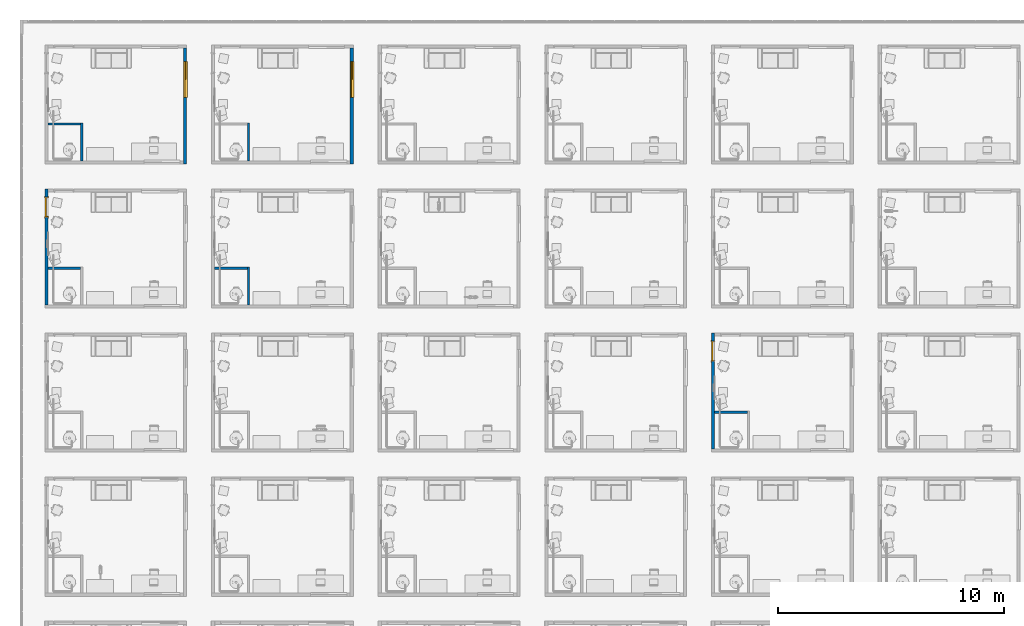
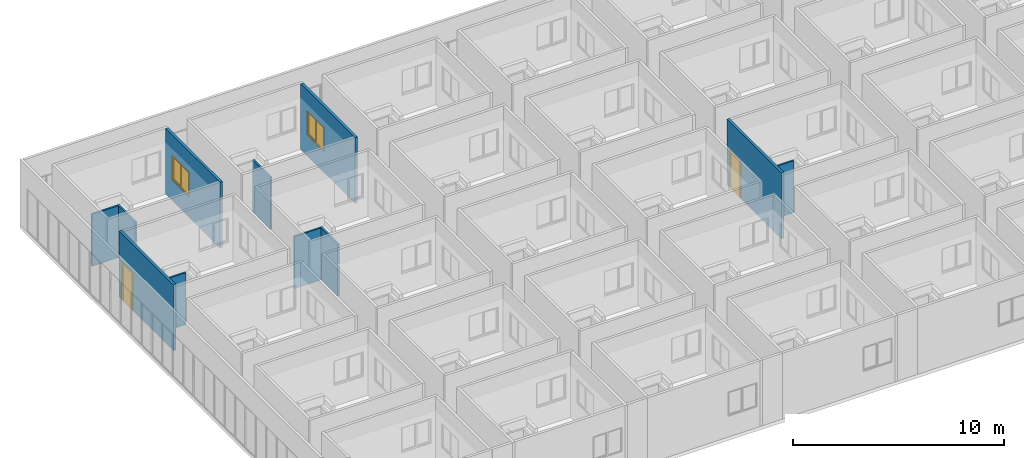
# One storey, part 8 of 71: 11 walls, 2 doors, 2 windows, 4 openings.
"""IFC4 building model written with IfcOpenShell, lengths in centimetres."""

from ifc_helpers import new_model, entity, si_unit, converted_unit, derived_unit, direction, frame, origin, place, context, subcontext, project, spatial, indexed_curve, outline, extrude, polygons, source, transform, mapped, material, constituent, constituent_set, type_object, type_shapes, element, fill, save


model = new_model("IFC4")

# Units and contexts
model_context = context("Model", 3, precision=0.001, world=origin(), true_north=direction((6.123233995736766e-17, 1.0)))
body_context = subcontext(model_context, "Body", "Model", "MODEL_VIEW")
ifc_project = project(units=[si_unit("LENGTHUNIT", "METRE", prefix="CENTI"), si_unit("AREAUNIT", "SQUARE_METRE"), si_unit("VOLUMEUNIT", "CUBIC_METRE"), derived_unit("THERMALTRANSMITTANCEUNIT", [(si_unit("MASSUNIT", "GRAM", prefix="KILO"), 1), (si_unit("THERMODYNAMICTEMPERATUREUNIT", "KELVIN"), -1), (si_unit("TIMEUNIT", "SECOND"), -3)]), converted_unit("PLANEANGLEUNIT", "DEGREE", entity("IfcPlaneAngleMeasure", 0.017453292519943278), si_unit("PLANEANGLEUNIT", "RADIAN"), dimensions=[0, 0, 0, 0, 0, 0, 0]), derived_unit("MASSDENSITYUNIT", [(si_unit("MASSUNIT", "GRAM", prefix="KILO"), 1), (si_unit("LENGTHUNIT", "METRE"), -3)]), derived_unit("VAPORPERMEABILITYUNIT", [(si_unit("LENGTHUNIT", "METRE"), -1), (si_unit("TIMEUNIT", "SECOND"), 1)]), derived_unit("USERDEFINED", [(si_unit("MASSUNIT", "GRAM", prefix="KILO"), 1), (si_unit("TIMEUNIT", "SECOND"), -3), (si_unit("LENGTHUNIT", "METRE"), 3), (si_unit("ELECTRICCURRENTUNIT", "AMPERE"), -2)]), derived_unit("SPECIFICHEATCAPACITYUNIT", [(si_unit("THERMODYNAMICTEMPERATUREUNIT", "KELVIN"), -1), (si_unit("LENGTHUNIT", "METRE"), 2), (si_unit("TIMEUNIT", "SECOND"), -2)]), derived_unit("THERMALCONDUCTANCEUNIT", [(si_unit("MASSUNIT", "GRAM", prefix="KILO"), 1), (si_unit("THERMODYNAMICTEMPERATUREUNIT", "KELVIN"), -1), (si_unit("TIMEUNIT", "SECOND"), -3), (si_unit("LENGTHUNIT", "METRE"), 1)]), si_unit("PRESSUREUNIT", "PASCAL"), derived_unit("MODULUSOFELASTICITYUNIT", [(si_unit("MASSUNIT", "GRAM", prefix="KILO"), 1), (si_unit("LENGTHUNIT", "METRE"), -1), (si_unit("TIMEUNIT", "SECOND"), -2)]), derived_unit("THERMALEXPANSIONCOEFFICIENTUNIT", [(si_unit("THERMODYNAMICTEMPERATUREUNIT", "KELVIN"), -1)])], contexts=[model_context])

# Site, building, storey
site_placement = place(None, origin())
site = spatial("IfcSite", under=ifc_project, at=site_placement, Name="Default", CompositionType="ELEMENT")
building_placement = place(site_placement, origin())
building = spatial("IfcBuilding", under=site, at=building_placement, Name="IDS Escape Game Building", CompositionType="ELEMENT")
storey_placement = place(building_placement, frame((0.0, 0.0, 1200.0)))
storey = spatial("IfcBuildingStorey", under=building, at=storey_placement, Name="03_Third Floor", CompositionType="ELEMENT", Elevation=1200.0)

# Wall, opening, door
ifc_material_1 = material(Name="ARC_FME.g2_Fg2 Masonry_00_gen_BERSnl", Category="g - klei")
wall_type_1 = type_object("IfcWallType", Name="Basic Wall:ARC_22.10_WA_LB_SB14_gen_BERSnl", PredefinedType="STANDARD")
wall_1_placement = place(storey_placement, frame((2952.0, 1803.0, 0.0), z_axis=(0.0, 0.0, 1.0), x_axis=(0.0, -1.0, 0.0)))
wall_1 = element("IfcWall", 1, at=wall_1_placement, inside=storey, type_object=wall_type_1, material=ifc_material_1, Name="Basic Wall:ARC_22.10_WA_LB_SB14_gen_BERSnl", ObjectType="Basic Wall:ARC_22.10_WA_LB_SB14_gen_BERSnl", PredefinedType="NOTDEFINED", context=body_context, shape_type="Tessellation", body=[
    polygons([(514.0000000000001, -6.999999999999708, 380.0), (2.1657342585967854e-13, -6.999999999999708, 380.0), (2.1657342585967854e-13, -6.999999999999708, 0.0), (35.99999999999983, -6.999999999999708, 0.0), (36.00000000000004, -6.999999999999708, 215.00000000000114), (125.99999999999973, -6.999999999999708, 215.00000000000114), (125.99999999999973, -6.999999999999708, 0.0), (514.0000000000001, -6.999999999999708, 0.0), (2.1657342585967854e-13, 7.000000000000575, 380.0), (14.000000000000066, 7.000000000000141, 380.0), (514.0000000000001, 7.000000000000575, 380.0), (514.0000000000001, 7.000000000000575, 0.0), (355.99999999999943, 7.000000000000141, 0.0), (345.9999999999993, 7.000000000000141, 0.0), (125.99999999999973, 7.000000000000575, 0.0), (125.99999999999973, 7.000000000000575, 215.00000000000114), (35.99999999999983, 7.000000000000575, 215.00000000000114), (35.99999999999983, 7.000000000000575, 0.0), (14.000000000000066, 7.000000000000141, 0.0), (2.1657342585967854e-13, 7.000000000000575, 0.0)], [[[1, 2, 3, 4, 5, 6, 7, 8]], [[9, 10, 11, 12, 13, 14, 15, 16, 17, 18, 19, 20]], [[3, 20, 19, 18, 4]], [[2, 1, 11, 10, 9]], [[17, 5, 4, 18]], [[6, 16, 15, 7]], [[5, 17, 16, 6]], [[3, 2, 9, 20]], [[1, 8, 12, 11]], [[12, 8, 7, 15, 14, 13]]], closed=True),
])
opening_1_placement = place(wall_1_placement, frame((1803.0, -2952.0, 0.0), z_axis=(0.0, 0.0, 1.0), x_axis=(0.0, 1.0, 0.0)))
opening_1 = element("IfcOpeningElement", 2, at=opening_1_placement, cuts=wall_1, Name="Basic Wall:ARC_22.10_WA_LB_SB14_gen_BERSnl", PredefinedType="OPENING", context=body_context, shape_type="SweptSolid", body=[
    extrude(outline(indexed_curve([(-137.49999999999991, -44.99999999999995), (137.49999999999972, -44.99999999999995), (137.49999999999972, 44.99999999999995), (-137.49999999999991, 44.99999999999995), (-137.49999999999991, -44.99999999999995)], self_intersect=False)), frame((2862.0, 1722.0, 77.50000000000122), z_axis=(1.0, 0.0, 0.0), x_axis=(0.0, 0.0, 1.0)), (0.0, 0.0, 1.0), 166.00000000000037),
])
ifc_material_2 = material(Name="ARC_FME.i3_wood_00_gen_BERSnl", Category="i - hout")
door_type = type_object("IfcDoorType", Name="ARC_32.30_DO_WB_binnendeur enkel draaiend met void_gen_BERSnl:Fire Exit_830x2115_EI60", OperationType="SINGLE_SWING_RIGHT", PredefinedType="DOOR", material=ifc_material_2)
shared_shape_1 = source(origin(), body_context, "Body", "Tessellation", [
    extrude(outline(indexed_curve([(-41.49999999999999, -3.749999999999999), (41.49999999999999, -3.749999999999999), (41.49999999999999, 3.75), (-41.49999999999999, 3.75), (-41.49999999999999, -3.749999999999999)], self_intersect=False)), frame((45.0, 79.24999999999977, 60.0), z_axis=(0.0, 0.0, 1.0), x_axis=(-1.0, 0.0, 0.0)), (0.0, 0.0, 1.0), 211.50000000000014),
    polygons([(88.99999999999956, 82.99999999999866, 59.999999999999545), (88.9999999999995, 67.99999999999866, 59.999999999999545), (94.99999999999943, 67.99999999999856, 59.999999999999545), (94.99999999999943, 66.49999999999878, 59.999999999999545), (84.99999999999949, 66.4999999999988, 59.999999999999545), (84.99999999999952, 75.49999999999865, 59.999999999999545), (86.49999999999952, 75.49999999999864, 59.999999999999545), (86.49999999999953, 84.49999999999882, 59.999999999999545), (94.99999999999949, 84.49999999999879, 59.999999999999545), (94.99999999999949, 82.99999999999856, 59.999999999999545), (88.99999999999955, 82.99999999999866, 274.0000000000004), (88.9999999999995, 67.99999999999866, 274.0000000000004), (0.9999999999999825, 67.99999999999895, 274.0000000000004), (0.9999999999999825, 67.99999999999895, 59.99999999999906), (-4.999999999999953, 67.99999999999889, 59.99999999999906), (-4.999999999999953, 67.99999999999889, 280.00000000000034), (94.99999999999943, 67.99999999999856, 280.00000000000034), (94.99999999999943, 66.49999999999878, 280.00000000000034), (-4.999999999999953, 66.4999999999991, 280.00000000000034), (-4.999999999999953, 66.4999999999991, 59.99999999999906), (4.999999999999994, 66.49999999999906, 59.99999999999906), (4.999999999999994, 66.49999999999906, 270.00000000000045), (84.99999999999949, 66.4999999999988, 270.00000000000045), (84.99999999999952, 75.49999999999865, 270.00000000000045), (5.000000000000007, 75.4999999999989, 270.00000000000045), (5.0, 75.4999999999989, 59.99999999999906), (3.5000000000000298, 75.4999999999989, 59.99999999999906), (3.500000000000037, 75.4999999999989, 271.50000000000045), (86.4999999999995, 75.49999999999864, 271.50000000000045), (86.49999999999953, 84.49999999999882, 271.50000000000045), (3.5000000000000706, 84.49999999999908, 271.50000000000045), (3.500000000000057, 84.49999999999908, 59.99999999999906), (-4.999999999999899, 84.4999999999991, 59.99999999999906), (-4.999999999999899, 84.4999999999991, 280.00000000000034), (94.99999999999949, 84.49999999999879, 280.00000000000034), (94.99999999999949, 82.99999999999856, 280.00000000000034), (-4.999999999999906, 82.99999999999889, 280.00000000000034), (-4.999999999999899, 82.99999999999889, 59.99999999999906), (1.0000000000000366, 82.99999999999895, 59.99999999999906), (1.0000000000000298, 82.99999999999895, 274.0000000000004)], [[[1, 2, 3, 4, 5, 6, 7, 8, 9, 10]], [[2, 1, 11, 12]], [[3, 2, 12, 13, 14, 15, 16, 17]], [[4, 3, 17, 18]], [[5, 4, 18, 19, 20, 21, 22, 23]], [[6, 5, 23, 24]], [[7, 6, 24, 25, 26, 27, 28, 29]], [[8, 7, 29, 30]], [[9, 8, 30, 31, 32, 33, 34, 35]], [[10, 9, 35, 36]], [[1, 10, 36, 37, 38, 39, 40, 11]], [[37, 34, 33, 38]], [[39, 38, 33, 32, 27, 26, 21, 20, 15, 14]], [[13, 40, 39, 14]], [[31, 28, 27, 32]], [[25, 22, 21, 26]], [[19, 16, 15, 20]], [[36, 35, 34, 37]], [[30, 29, 28, 31]], [[24, 23, 22, 25]], [[18, 17, 16, 19]], [[12, 11, 40, 13]]], closed=True),
])
type_shapes(door_type, [shared_shape_1])
door_1_placement = place(opening_1_placement, frame((3028.0, 1677.0, -60.0), z_axis=(0.0, 0.0, 1.0), x_axis=(0.0, 1.0, 0.0)))
door_1 = element("IfcDoor", 3, at=door_1_placement, inside=storey, type_object=door_type, material=ifc_material_2, Name="ARC_32.30_DO_WB_binnendeur enkel draaiend met void_gen_BERSnl:Fire Exit_830x2115_EI60", ObjectType="ARC_32.30_DO_WB_binnendeur enkel draaiend met void_gen_BERSnl:Fire Exit_830x2115_EI60", OverallHeight=274.99999999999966, OverallWidth=89.9999999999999, PredefinedType="DOOR", context=body_context, shape_type="MappedRepresentation", body=[
    mapped(shared_shape_1, transform((0.0, 0.0, 0.0), scale=1.0)),
])
fill(opening_1, door_1)

wall_2_placement = place(storey_placement, frame((0.0, 2441.0, 0.0), z_axis=(0.0, 0.0, 1.0), x_axis=(0.0, -1.0, 0.0)))
wall_2 = element("IfcWall", 4, at=wall_2_placement, inside=storey, type_object=wall_type_1, material=ifc_material_1, Name="Basic Wall:ARC_22.10_WA_LB_SB14_gen_BERSnl", ObjectType="Basic Wall:ARC_22.10_WA_LB_SB14_gen_BERSnl", PredefinedType="NOTDEFINED", context=body_context, shape_type="Tessellation", body=[
    polygons([(513.9999999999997, -7.0, 380.0), (0.0, -7.0, 380.0), (0.0, -7.0, 0.0), (35.999999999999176, -7.0, 0.0), (35.999999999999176, -7.000000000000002, 215.00000000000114), (125.99999999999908, -7.000000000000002, 215.00000000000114), (125.99999999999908, -7.0, 0.0), (513.9999999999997, -7.0, 0.0), (0.0, 7.0, 380.0), (13.999999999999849, 7.0, 380.0), (513.9999999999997, 7.0, 380.0), (513.9999999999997, 7.0, 0.0), (355.9999999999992, 7.0, 0.0), (345.9999999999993, 7.0, 0.0), (125.99999999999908, 7.0, 0.0), (125.99999999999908, 6.9999999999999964, 215.00000000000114), (35.999999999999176, 7.000000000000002, 215.00000000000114), (35.999999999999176, 7.0, 0.0), (13.999999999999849, 7.0, 0.0), (0.0, 7.0, 0.0)], [[[1, 2, 3, 4, 5, 6, 7, 8]], [[9, 10, 11, 12, 13, 14, 15, 16, 17, 18, 19, 20]], [[3, 20, 19, 18, 4]], [[2, 1, 11, 10, 9]], [[17, 5, 4, 18]], [[6, 16, 15, 7]], [[5, 17, 16, 6]], [[3, 2, 9, 20]], [[1, 8, 12, 11]], [[12, 8, 7, 15, 14, 13]]], closed=True),
])
opening_2_placement = place(wall_2_placement, frame((2441.0, 0.0, 0.0), z_axis=(0.0, 0.0, 1.0), x_axis=(0.0, 1.0, 0.0)))
opening_2 = element("IfcOpeningElement", 5, at=opening_2_placement, cuts=wall_2, Name="Basic Wall:ARC_22.10_WA_LB_SB14_gen_BERSnl", PredefinedType="OPENING", context=body_context, shape_type="SweptSolid", body=[
    extrude(outline(indexed_curve([(-137.49999999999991, -45.00000000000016), (137.49999999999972, -45.00000000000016), (137.49999999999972, 44.99999999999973), (-137.49999999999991, 44.99999999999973), (-137.49999999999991, -45.00000000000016)], self_intersect=False)), frame((-90.0, 2360.0, 77.50000000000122), z_axis=(1.0, 0.0, 0.0), x_axis=(0.0, 0.0, 1.0)), (0.0, 0.0, 1.0), 166.0),
])
door_2_placement = place(opening_2_placement, frame((76.0, 2315.0, -60.0), z_axis=(0.0, 0.0, 1.0), x_axis=(0.0, 1.0, 0.0)))
door_2 = element("IfcDoor", 6, at=door_2_placement, inside=storey, type_object=door_type, material=ifc_material_2, Name="ARC_32.30_DO_WB_binnendeur enkel draaiend met void_gen_BERSnl:Fire Exit_830x2115_EI60", ObjectType="ARC_32.30_DO_WB_binnendeur enkel draaiend met void_gen_BERSnl:Fire Exit_830x2115_EI60", OverallHeight=274.99999999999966, OverallWidth=89.9999999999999, PredefinedType="DOOR", context=body_context, shape_type="MappedRepresentation", body=[
    mapped(shared_shape_1, transform((0.0, 0.0, 0.0), scale=1.0)),
])
fill(opening_2, door_2)

# Wall, opening, window
wall_3_placement = place(storey_placement, frame((614.0, 2551.0, 0.0), z_axis=(0.0, 0.0, 1.0), x_axis=(0.0, 1.0, 0.0)))
wall_3 = element("IfcWall", 7, at=wall_3_placement, inside=storey, type_object=wall_type_1, material=ifc_material_1, Name="Basic Wall:ARC_22.10_WA_LB_SB14_gen_BERSnl", ObjectType="Basic Wall:ARC_22.10_WA_LB_SB14_gen_BERSnl", PredefinedType="NOTDEFINED", context=body_context, shape_type="Tessellation", body=[
    polygons([(0.0, -6.9999999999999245, 0.0), (513.9999999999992, -6.9999999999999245, 0.0), (513.9999999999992, -6.9999999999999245, 380.0), (0.0, -6.9999999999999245, 380.0), (453.9999999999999, -6.999999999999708, 260.00000000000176), (453.9999999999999, -6.9999999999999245, 120.00000000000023), (293.9999999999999, -7.000000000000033, 120.00000000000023), (293.9999999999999, -6.999999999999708, 260.00000000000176), (453.9999999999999, 7.000000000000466, 120.00000000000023), (453.9999999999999, 7.000000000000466, 260.0), (293.9999999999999, 7.000000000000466, 260.0), (293.9999999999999, 7.000000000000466, 120.00000000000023), (0.0, 7.000000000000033, 0.0), (0.0, 7.000000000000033, 380.0), (13.999999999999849, 7.000000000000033, 380.0), (513.9999999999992, 7.000000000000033, 380.0), (513.9999999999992, 7.000000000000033, 0.0), (13.999999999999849, 7.000000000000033, 0.0)], [[[1, 2, 3, 4], [5, 6, 7, 8]], [[13, 14, 15, 16, 17, 18], [9, 10, 11, 12]], [[2, 1, 13, 18, 17]], [[4, 3, 16, 15, 14]], [[10, 9, 6, 5]], [[7, 12, 11, 8]], [[10, 5, 8, 11]], [[12, 7, 6, 9]], [[1, 4, 14, 13]], [[3, 2, 17, 16]]], closed=True),
])
opening_3_placement = place(wall_3_placement, frame((-2551.0, 614.0, 120.0), z_axis=(0.0, 0.0, 1.0), x_axis=(0.0, -1.0, 0.0)))
opening_3 = element("IfcOpeningElement", 8, at=opening_3_placement, cuts=wall_3, Name="Basic Wall:ARC_22.10_WA_LB_SB14_gen_BERSnl", PredefinedType="OPENING", context=body_context, shape_type="Tessellation", body=[
    polygons([(607.0, 3005.000000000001, 2.2737367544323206e-13), (607.0, 3005.000000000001, -1.0), (602.0, 3005.000000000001, -1.0), (602.0, 3005.000000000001, 2.2737367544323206e-13), (606.9999999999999, 2845.000000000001, 2.2737367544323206e-13), (601.9999999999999, 2845.000000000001, 2.2737367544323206e-13), (601.9999999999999, 2845.000000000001, -1.0), (606.9999999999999, 2845.000000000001, -1.0), (606.9999999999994, 3000.000000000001, 0.0), (606.9999999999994, 2850.000000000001, 0.0), (601.9999999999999, 2850.0000000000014, 2.2737367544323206e-13), (601.9999999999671, 2850.0000000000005, 135.0), (601.9999999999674, 3000.0000000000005, 135.0), (601.9999999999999, 3000.000000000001, 2.2737367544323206e-13), (626.0368251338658, 3005.000000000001, 2.2737367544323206e-13), (606.9999999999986, 3005.000000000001, 2.2737367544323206e-13), (606.9999999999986, 3005.000000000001, 140.00000000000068), (626.0368251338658, 3005.000000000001, 140.00000000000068), (626.0368251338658, 2845.000000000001, 140.0), (606.9999999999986, 2845.000000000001, 140.0), (606.9999999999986, 2845.000000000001, 2.2737367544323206e-13), (626.0368251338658, 2845.000000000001, 2.2737367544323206e-13), (606.9999999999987, 3000.0000000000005, 135.0), (606.9999999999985, 2850.0000000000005, 135.0)], [[[1, 2, 3, 4]], [[5, 6, 7, 8]], [[1, 9, 10, 5, 8, 2]], [[2, 8, 7, 3]], [[3, 7, 6, 11, 12, 13, 14, 4]], [[4, 14, 9, 1]], [[15, 16, 17, 18]], [[19, 20, 21, 22]], [[18, 17, 20, 19]], [[18, 19, 22, 15]], [[17, 16, 9, 23, 24, 10, 21, 20]], [[22, 21, 10, 9, 16, 15]], [[11, 10, 24, 12]], [[13, 23, 9, 14]], [[12, 24, 23, 13]], [[5, 10, 11, 6]]], closed=True),
])
ifc_material_3 = material(Name="<Unnamed>")
ifc_constituent_1 = constituent(ifc_material_3, Name="<Unnamed>", fraction=0.0)
ifc_material_4 = material(Name="ARC_FME.o1_glass_00_gen_BERSnl", Category="o - glas")
ifc_constituent_2 = constituent(ifc_material_4, Name="ARC_FME.o1_glass_00_gen_BERSnl", Category="o - glas", fraction=1.0)
ifc_constituent_set_1 = constituent_set(constituents=[ifc_constituent_1, ifc_constituent_2])
ifc_constituent_3 = constituent(ifc_material_3, Name="BE Tablet", fraction=0.0)
ifc_constituent_4 = constituent(ifc_material_3, Name="Frame/Mullion", fraction=0.0)
ifc_constituent_5 = constituent(ifc_material_4, Name="Glass", Category="o - glas", fraction=1.0)
ifc_constituent_set_2 = constituent_set(constituents=[ifc_constituent_3, ifc_constituent_4, ifc_constituent_5])
window_type = type_object("IfcWindowType", Name="ARC_31_WI_WB_Dubbel Raam-Recht-Vast en Draaiend_gen_BERSnl:Links-Draaiend / Rechts-Draaiend", PartitioningType="NOTDEFINED", PredefinedType="WINDOW", material=ifc_constituent_set_2)
shared_shape_2 = source(origin(), body_context, "Body", "Tessellation", [
    extrude(outline(indexed_curve([(-80.00000000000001, -4.999999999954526), (80.00000000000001, -4.999999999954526), (80.00000000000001, 4.999999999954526), (-80.00000000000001, 4.999999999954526), (-80.00000000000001, -4.999999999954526)], self_intersect=False)), frame((80.0, 7.036825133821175, 1.0), z_axis=(0.0, 0.0, 1.0), x_axis=(-1.0, 0.0, 0.0)), (0.0, 0.0, 1.0), 2.000000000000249),
    extrude(outline(indexed_curve([(-2.9999999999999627, -3.000000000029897), (-7.656209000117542e-14, -3.000000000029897), (-7.064016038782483e-14, 5.979964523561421e-11), (3.0000000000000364, 5.978991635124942e-11), (3.0000000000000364, 2.9999999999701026), (-2.9999999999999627, 2.9999999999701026), (-2.9999999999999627, -3.000000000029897)], self_intersect=False)), frame((80.0, 15.03682513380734, 7.0)), (0.0, 0.0, 1.0), 128.00000000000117),
    extrude(outline(indexed_curve([(-35.499999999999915, -1.2000000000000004), (35.499999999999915, -1.2000000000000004), (35.49999999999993, 1.2), (-35.499999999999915, 1.2), (-35.499999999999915, -1.2000000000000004)], self_intersect=False)), frame((41.50000000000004, 15.036825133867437, 7.0), z_axis=(0.0, 0.0, 1.0), x_axis=(-1.0, 0.0, 0.0)), (0.0, 0.0, 1.0), 128.000000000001),
    extrude(outline(indexed_curve([(-67.00000000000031, -38.500000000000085), (67.00000000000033, -38.5000000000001), (67.00000000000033, 38.50000000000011), (-67.00000000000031, 38.50000000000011), (-67.00000000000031, -38.500000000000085)], self_intersect=False), holes=[indexed_curve([(61.00000000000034, -32.50000000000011), (-61.00000000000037, -32.500000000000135), (-61.00000000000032, 32.50000000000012), (61.00000000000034, 32.50000000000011), (61.00000000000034, -32.50000000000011)], self_intersect=False)]), frame((118.5, 9.03682513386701, 71.0), z_axis=(0.0, 1.0, 0.0), x_axis=(0.0, 0.0, -1.0)), (0.0, 0.0, 1.0), 6.0),
    extrude(outline(indexed_curve([(-32.500000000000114, -1.2000000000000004), (32.500000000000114, -1.2000000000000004), (32.500000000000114, 1.2000000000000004), (-32.500000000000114, 1.2000000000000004), (-32.500000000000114, -1.2000000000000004)], self_intersect=False)), frame((118.5, 12.036825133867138, 10.0), z_axis=(0.0, 0.0, 1.0), x_axis=(-1.0, 0.0, 0.0)), (0.0, 0.0, 1.0), 122.00000000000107),
    polygons([(160.00000000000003, 18.03682513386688, 141.00000000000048), (160.00000000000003, 18.03682513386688, 1.0000000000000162), (4.0607517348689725e-14, 18.036825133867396, 1.0000000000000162), (4.0607517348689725e-14, 18.036825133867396, 141.00000000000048), (6.000000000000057, 18.03682513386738, 135.00000000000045), (6.000000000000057, 18.03682513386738, 7.000000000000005), (76.99999999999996, 18.03682513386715, 7.000000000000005), (154.00000000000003, 18.0368251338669, 7.000000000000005), (154.00000000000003, 18.0368251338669, 135.00000000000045), (76.99999999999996, 18.03682513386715, 135.00000000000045), (160.0, 12.03682513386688, 141.00000000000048), (160.0, 12.03682513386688, 1.0000000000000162), (2.7071678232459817e-14, 12.036825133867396, 1.0000000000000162), (2.7071678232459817e-14, 12.036825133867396, 141.00000000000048), (6.000000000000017, 12.036825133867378, 135.00000000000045), (6.000000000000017, 12.036825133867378, 7.000000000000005), (76.99999999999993, 12.036825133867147, 7.000000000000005), (79.99999999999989, 12.036825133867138, 7.000000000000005), (79.9999999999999, 15.036825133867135, 7.000000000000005), (154.00000000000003, 15.0368251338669, 7.000000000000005), (154.00000000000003, 15.036825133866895, 135.00000000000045), (76.99999999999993, 12.036825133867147, 135.00000000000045), (79.99999999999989, 12.036825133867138, 135.00000000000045), (79.99999999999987, 12.036825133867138, 138.00000000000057), (157.00000000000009, 12.036825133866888, 138.00000000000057), (157.00000000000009, 12.036825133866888, 3.9999999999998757), (79.99999999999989, 12.036825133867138, 3.9999999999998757), (157.0000000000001, 15.036825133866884, 3.9999999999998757), (157.0000000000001, 15.036825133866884, 138.00000000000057), (79.99999999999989, 15.036825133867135, 3.9999999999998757), (79.99999999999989, 15.036825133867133, 138.00000000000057), (79.99999999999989, 15.036825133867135, 135.00000000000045)], [[[1, 2, 3, 4], [5, 6, 7, 8, 9, 10]], [[2, 1, 11, 12]], [[3, 2, 12, 13]], [[4, 3, 13, 14]], [[6, 5, 15, 16]], [[6, 16, 17, 18, 19, 20, 8, 7]], [[9, 8, 20, 21]], [[11, 14, 13, 12], [16, 15, 22, 23, 24, 25, 26, 27, 18, 17]], [[28, 26, 25, 29]], [[30, 27, 26, 28]], [[31, 24, 23, 32]], [[30, 28, 29, 31, 32, 21, 20, 19]], [[1, 4, 14, 11]], [[15, 5, 10, 9, 21, 32, 23, 22]], [[24, 31, 29, 25]], [[27, 30, 19, 18]]], closed=True),
])
type_shapes(window_type, [shared_shape_2])
window_1_placement = place(opening_3_placement, frame((626.0368251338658, 2845.0, -1.0), z_axis=(0.0, 0.0, 1.0), x_axis=(0.0, 1.0, 0.0)))
window_1 = element("IfcWindow", 9, at=window_1_placement, inside=storey, type_object=window_type, material=ifc_constituent_set_1, Name="ARC_31_WI_WB_Dubbel Raam-Recht-Vast en Draaiend_gen_BERSnl:Links-Draaiend / Rechts-Draaiend", ObjectType="ARC_31_WI_WB_Dubbel Raam-Recht-Vast en Draaiend_gen_BERSnl:Links-Draaiend / Rechts-Draaiend", OverallHeight=140.00000000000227, OverallWidth=160.0000000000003, PartitioningType="NOTDEFINED", PredefinedType="WINDOW", context=body_context, shape_type="MappedRepresentation", body=[
    mapped(shared_shape_2, transform((0.0, 0.0, 0.0), scale=1.0)),
])
fill(opening_3, window_1)

wall_4_placement = place(storey_placement, frame((1352.0, 2551.0, 0.0), z_axis=(0.0, 0.0, 1.0), x_axis=(0.0, 1.0, 0.0)))
wall_4 = element("IfcWall", 10, at=wall_4_placement, inside=storey, type_object=wall_type_1, material=ifc_material_1, Name="Basic Wall:ARC_22.10_WA_LB_SB14_gen_BERSnl", ObjectType="Basic Wall:ARC_22.10_WA_LB_SB14_gen_BERSnl", PredefinedType="NOTDEFINED", context=body_context, shape_type="Tessellation", body=[
    polygons([(0.0, -7.000000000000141, 0.0), (513.9999999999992, -7.000000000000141, 0.0), (513.9999999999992, -7.000000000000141, 380.0), (0.0, -7.000000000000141, 380.0), (453.99999999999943, -6.999999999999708, 260.00000000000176), (453.9999999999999, -7.000000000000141, 120.00000000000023), (293.9999999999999, -7.000000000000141, 120.00000000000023), (293.9999999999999, -6.999999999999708, 260.00000000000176), (453.9999999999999, 7.000000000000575, 120.00000000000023), (453.9999999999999, 7.000000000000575, 260.0), (293.9999999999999, 7.000000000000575, 260.0), (293.9999999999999, 7.000000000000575, 120.00000000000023), (0.0, 6.9999999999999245, 0.0), (0.0, 6.9999999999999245, 380.0), (13.999999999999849, 6.9999999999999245, 380.0), (513.9999999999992, 6.9999999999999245, 380.0), (513.9999999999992, 6.9999999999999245, 0.0), (13.999999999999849, 6.9999999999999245, 0.0)], [[[1, 2, 3, 4], [5, 6, 7, 8]], [[13, 14, 15, 16, 17, 18], [9, 10, 11, 12]], [[2, 1, 13, 18, 17]], [[4, 3, 16, 15, 14]], [[10, 9, 6, 5]], [[7, 12, 11, 8]], [[10, 5, 8, 11]], [[12, 7, 6, 9]], [[1, 4, 14, 13]], [[3, 2, 17, 16]]], closed=True),
])
opening_4_placement = place(wall_4_placement, frame((-2551.0, 1352.0, 120.0), z_axis=(0.0, 0.0, 1.0), x_axis=(0.0, -1.0, 0.0)))
opening_4 = element("IfcOpeningElement", 11, at=opening_4_placement, cuts=wall_4, Name="Basic Wall:ARC_22.10_WA_LB_SB14_gen_BERSnl", PredefinedType="OPENING", context=body_context, shape_type="Tessellation", body=[
    polygons([(1344.9999999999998, 3004.999999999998, 2.2737367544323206e-13), (1344.9999999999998, 3004.999999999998, -1.0), (1339.9999999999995, 3004.999999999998, -1.0), (1339.9999999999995, 3004.999999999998, 2.2737367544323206e-13), (1344.9999999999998, 2844.999999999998, 2.2737367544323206e-13), (1339.9999999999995, 2844.999999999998, 2.2737367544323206e-13), (1339.9999999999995, 2844.999999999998, -1.0), (1344.9999999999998, 2844.999999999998, -1.0), (1344.9999999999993, 2999.999999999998, 0.0), (1344.999999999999, 2849.999999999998, 0.0), (1339.9999999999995, 2849.999999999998, 2.2737367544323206e-13), (1339.999999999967, 2849.999999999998, 135.0), (1339.9999999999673, 2999.999999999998, 135.0), (1339.9999999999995, 2999.999999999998, 2.2737367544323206e-13), (1364.0368251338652, 3004.9999999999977, 2.2737367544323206e-13), (1344.9999999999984, 3004.999999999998, 2.2737367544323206e-13), (1344.9999999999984, 3004.9999999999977, 140.00000000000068), (1364.0368251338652, 3004.999999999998, 140.00000000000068), (1364.0368251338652, 2844.999999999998, 140.0), (1344.9999999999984, 2844.999999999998, 140.0), (1344.9999999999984, 2844.999999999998, 2.2737367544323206e-13), (1364.0368251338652, 2844.999999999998, 2.2737367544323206e-13), (1344.9999999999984, 2999.999999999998, 135.0), (1344.9999999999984, 2849.999999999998, 135.0)], [[[1, 2, 3, 4]], [[5, 6, 7, 8]], [[1, 9, 10, 5, 8, 2]], [[2, 8, 7, 3]], [[3, 7, 6, 11, 12, 13, 14, 4]], [[4, 14, 9, 1]], [[15, 16, 17, 18]], [[19, 20, 21, 22]], [[18, 17, 20, 19]], [[18, 19, 22, 15]], [[17, 16, 9, 23, 24, 10, 21, 20]], [[22, 21, 10, 9, 16, 15]], [[11, 10, 24, 12]], [[13, 23, 9, 14]], [[12, 24, 23, 13]], [[5, 10, 11, 6]]], closed=True),
])
ifc_constituent_6 = constituent(ifc_material_3, Name="<Unnamed>", fraction=0.0)
ifc_constituent_7 = constituent(ifc_material_4, Name="ARC_FME.o1_glass_00_gen_BERSnl", Category="o - glas", fraction=1.0)
ifc_constituent_set_3 = constituent_set(constituents=[ifc_constituent_6, ifc_constituent_7])
window_2_placement = place(opening_4_placement, frame((1364.0368251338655, 2845.0, -1.0), z_axis=(0.0, 0.0, 1.0), x_axis=(0.0, 1.0, 0.0)))
window_2 = element("IfcWindow", 12, at=window_2_placement, inside=storey, type_object=window_type, material=ifc_constituent_set_3, Name="ARC_31_WI_WB_Dubbel Raam-Recht-Vast en Draaiend_gen_BERSnl:Links-Draaiend / Rechts-Draaiend", ObjectType="ARC_31_WI_WB_Dubbel Raam-Recht-Vast en Draaiend_gen_BERSnl:Links-Draaiend / Rechts-Draaiend", OverallHeight=140.00000000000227, OverallWidth=160.0000000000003, PartitioningType="NOTDEFINED", PredefinedType="WINDOW", context=body_context, shape_type="MappedRepresentation", body=[
    mapped(shared_shape_2, transform((0.0, 0.0, 0.0), scale=1.0)),
])
fill(opening_4, window_2)

# Walls
ifc_material_5 = material(Name="ARC_FME.r2_Plaster_white_gen_BERSnl", Category="r - klei, gips, magnesium en kunststof bindmiddelen")
wall_type_2 = type_object("IfcWallType", Name="Basic Wall:ARC_22.10_WA_LB_GPS10_gen_BERSnl", PredefinedType="STANDARD")
wall_5_placement = place(storey_placement, frame((3104.0, 1452.0, 0.0), z_axis=(0.0, 0.0, 1.0), x_axis=(-1.0, 0.0, 0.0)))
element("IfcWall", 13, at=wall_5_placement, inside=storey, type_object=wall_type_2, material=ifc_material_5, Name="Basic Wall:ARC_22.10_WA_LB_GPS10_gen_BERSnl", ObjectType="Basic Wall:ARC_22.10_WA_LB_GPS10_gen_BERSnl", PredefinedType="NOTDEFINED", context=body_context, shape_type="SweptSolid", body=[
    extrude(outline(indexed_curve([(144.99999999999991, 4.9999999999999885), (-1.6380951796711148e-14, 4.999999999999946), (1.6380951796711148e-14, -4.999999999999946), (144.99999999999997, -4.999999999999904), (144.99999999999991, 4.9999999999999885)], self_intersect=False)), origin(), (0.0, 0.0, 1.0), 300.0000000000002),
])
wall_6_placement = place(storey_placement, frame((152.0, 2090.0, 0.0), z_axis=(0.0, 0.0, 1.0), x_axis=(-1.0, 0.0, 0.0)))
element("IfcWall", 14, at=wall_6_placement, inside=storey, type_object=wall_type_2, material=ifc_material_5, Name="Basic Wall:ARC_22.10_WA_LB_GPS10_gen_BERSnl", ObjectType="Basic Wall:ARC_22.10_WA_LB_GPS10_gen_BERSnl", PredefinedType="NOTDEFINED", context=body_context, shape_type="SweptSolid", body=[
    extrude(outline(indexed_curve([(145.00000000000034, 5.000000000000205), (1.0690726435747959e-14, 5.0000000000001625), (-1.0690726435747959e-14, -5.0000000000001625), (145.00000000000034, -5.00000000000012), (145.00000000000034, 5.000000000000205)], self_intersect=False)), origin(), (0.0, 0.0, 1.0), 300.0000000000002),
])
wall_7_placement = place(storey_placement, frame((895.0, 1927.0, 0.0), z_axis=(0.0, 0.0, 1.0), x_axis=(0.0, 1.0, 0.0)))
element("IfcWall", 15, at=wall_7_placement, inside=storey, type_object=wall_type_2, material=ifc_material_5, Name="Basic Wall:ARC_22.10_WA_LB_GPS10_gen_BERSnl", ObjectType="Basic Wall:ARC_22.10_WA_LB_GPS10_gen_BERSnl", PredefinedType="NOTDEFINED", context=body_context, shape_type="SweptSolid", body=[
    extrude(outline(indexed_curve([(167.99999999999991, 4.999999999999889), (-7.956027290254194e-15, 4.999999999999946), (7.956027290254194e-15, -4.999999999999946), (167.99999999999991, -5.0000000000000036), (167.99999999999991, 4.999999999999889)], self_intersect=False)), origin(), (0.0, 0.0, 1.0), 300.0000000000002),
])
wall_8_placement = place(storey_placement, frame((890.0, 2090.0, 0.0), z_axis=(0.0, 0.0, 1.0), x_axis=(-1.0, 0.0, 0.0)))
element("IfcWall", 16, at=wall_8_placement, inside=storey, type_object=wall_type_2, material=ifc_material_5, Name="Basic Wall:ARC_22.10_WA_LB_GPS10_gen_BERSnl", ObjectType="Basic Wall:ARC_22.10_WA_LB_GPS10_gen_BERSnl", PredefinedType="NOTDEFINED", context=body_context, shape_type="SweptSolid", body=[
    extrude(outline(indexed_curve([(145.00000000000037, 5.000000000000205), (-1.6380951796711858e-14, 5.0000000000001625), (1.6380951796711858e-14, -5.0000000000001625), (145.00000000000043, -5.00000000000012), (145.00000000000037, 5.000000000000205)], self_intersect=False)), origin(), (0.0, 0.0, 1.0), 300.0000000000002),
])
wall_9_placement = place(storey_placement, frame((157.0, 2565.0, 0.0), z_axis=(0.0, 0.0, 1.0), x_axis=(0.0, 1.0, 0.0)))
element("IfcWall", 17, at=wall_9_placement, inside=storey, type_object=wall_type_2, material=ifc_material_5, Name="Basic Wall:ARC_22.10_WA_LB_GPS10_gen_BERSnl", ObjectType="Basic Wall:ARC_22.10_WA_LB_GPS10_gen_BERSnl", PredefinedType="NOTDEFINED", context=body_context, shape_type="SweptSolid", body=[
    extrude(outline(indexed_curve([(167.9999999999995, 4.9999999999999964), (-7.956027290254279e-15, 5.0), (7.956027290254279e-15, -5.0), (167.9999999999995, -5.0000000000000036), (167.9999999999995, 4.9999999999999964)], self_intersect=False)), origin(), (0.0, 0.0, 1.0), 300.0000000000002),
])
wall_10_placement = place(storey_placement, frame((152.0, 2728.0, 0.0), z_axis=(0.0, 0.0, 1.0), x_axis=(-1.0, 0.0, 0.0)))
element("IfcWall", 18, at=wall_10_placement, inside=storey, type_object=wall_type_2, material=ifc_material_5, Name="Basic Wall:ARC_22.10_WA_LB_GPS10_gen_BERSnl", ObjectType="Basic Wall:ARC_22.10_WA_LB_GPS10_gen_BERSnl", PredefinedType="NOTDEFINED", context=body_context, shape_type="SweptSolid", body=[
    extrude(outline(indexed_curve([(145.00000000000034, 5.000000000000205), (1.0690726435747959e-14, 5.0000000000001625), (-1.0690726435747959e-14, -5.0000000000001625), (145.00000000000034, -5.00000000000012), (145.00000000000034, 5.000000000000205)], self_intersect=False)), origin(), (0.0, 0.0, 1.0), 300.0000000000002),
])
wall_11_placement = place(storey_placement, frame((895.0, 2565.0, 0.0), z_axis=(0.0, 0.0, 1.0), x_axis=(0.0, 1.0, 0.0)))
element("IfcWall", 19, at=wall_11_placement, inside=storey, type_object=wall_type_2, material=ifc_material_5, Name="Basic Wall:ARC_22.10_WA_LB_GPS10_gen_BERSnl", ObjectType="Basic Wall:ARC_22.10_WA_LB_GPS10_gen_BERSnl", PredefinedType="NOTDEFINED", context=body_context, shape_type="SweptSolid", body=[
    extrude(outline(indexed_curve([(167.9999999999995, 4.999999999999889), (-7.956027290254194e-15, 4.999999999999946), (7.956027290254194e-15, -4.999999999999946), (167.9999999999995, -5.0000000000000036), (167.9999999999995, 4.999999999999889)], self_intersect=False)), origin(), (0.0, 0.0, 1.0), 300.0000000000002),
])

save(model, "model.ifc")
